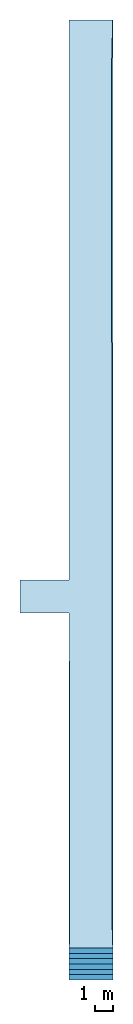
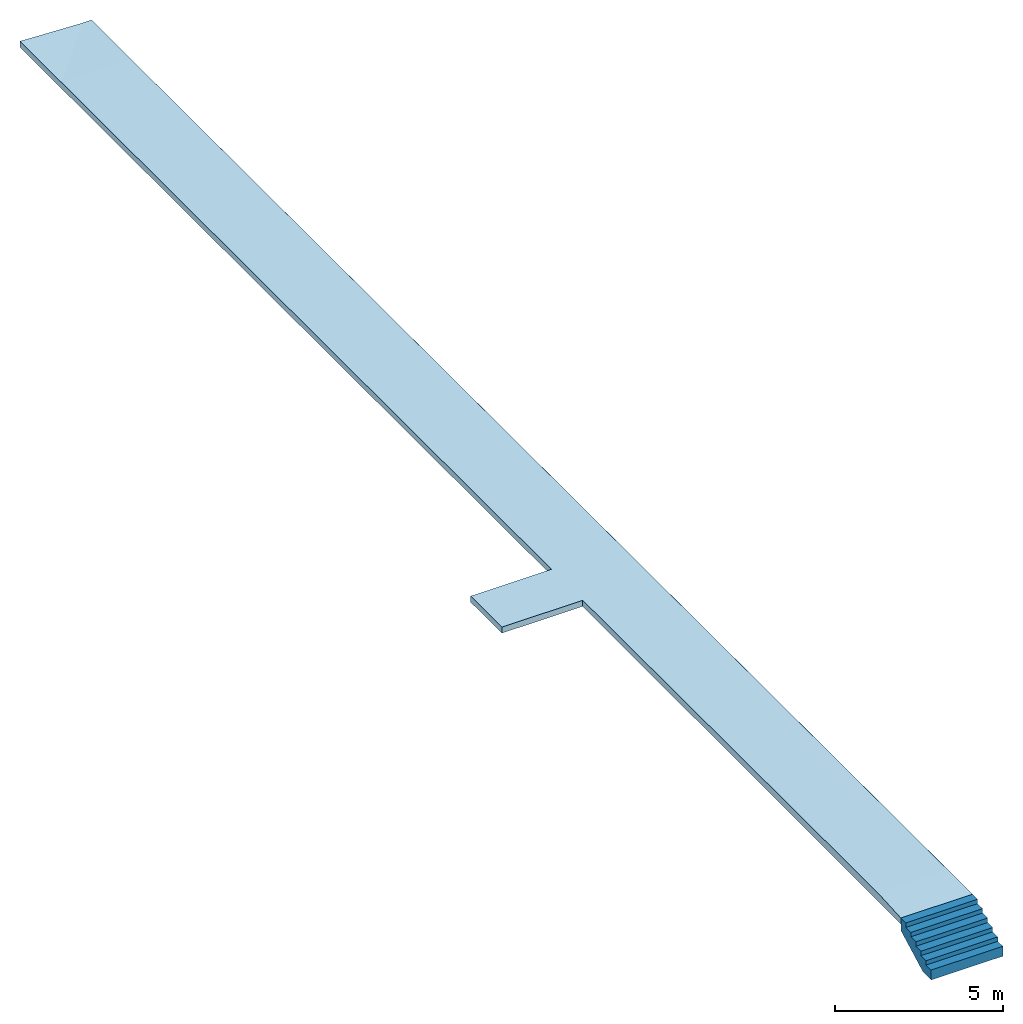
# One storey: 1 slab, 1 stair flight, 1 element without a shape of its own.
"""IFC2X3 building model written with IfcOpenShell, lengths in millimetres."""

import ifcopenshell
import ifcopenshell.guid

model = None  # the IFC model being written
_history = None  # IfcOwnerHistory: only IFC2X3 demands one
_inside = {}  # id of a spatial element -> (the spatial element, [elements in it])
_under = {}  # id of a project, library or spatial element -> (it, [spatial elements below it])
_declared = {}  # id of a project -> (the project, [libraries it declares])
_typed = {}  # id of a type object -> (the type object, [elements of that type])
_made_of = {}  # id of a material, layer set ... -> (it, [elements and type objects made of it])


def new_model(schema):
    """Start an empty IFC model of exactly this schema.

    Asked for "IFC4X3", IfcOpenShell would pick the latest addendum, in which some entities
    have other attributes; the version numbers below select the first issue.
    IFC2X3 requires an IfcOwnerHistory on every rooted entity: one is made here for all.
    """
    global model, _history
    if schema == "IFC4X3":
        model = ifcopenshell.file(schema_version=(4, 3, 0, 0))
    else:
        model = ifcopenshell.file(schema=schema)
    _inside.clear()
    _under.clear()
    _declared.clear()
    _typed.clear()
    _made_of.clear()
    _history = None
    if model.schema == "IFC2X3":
        org = make("IfcOrganization", Name="unknown")
        user = make(
            "IfcPersonAndOrganization",
            ThePerson=make("IfcPerson", FamilyName="unknown"),
            TheOrganization=org,
        )
        app = make(
            "IfcApplication",
            ApplicationDeveloper=org,
            Version="unknown",
            ApplicationFullName="unknown",
            ApplicationIdentifier="unknown",
        )
        _history = make(
            "IfcOwnerHistory",
            OwningUser=user,
            OwningApplication=app,
            ChangeAction="ADDED",
            CreationDate=0,
        )
    return model


def make(cls, **values):
    """One entity of the class cls with the attributes given. An attribute that is None is left unset."""
    return model.create_entity(
        cls, **{name: value for name, value in values.items() if value is not None}
    )


def entity(cls, *values):
    """Any entity or typed value of the class cls, its attributes in the order of the schema. None: left unset."""
    e = model.create_entity(cls)
    for i, value in enumerate(values):
        if value is not None:
            e[i] = value
    return e


def rooted(cls, **values):
    """An entity with a GlobalId (a new one), such as an element, a storey or a relation."""
    return make(cls, GlobalId=ifcopenshell.guid.new(), OwnerHistory=_history, **values)


def si_unit(unit_type, name, prefix=None):
    """IfcSIUnit, for example si_unit("LENGTHUNIT", "METRE", prefix="MILLI")."""
    return make("IfcSIUnit", UnitType=unit_type, Prefix=prefix, Name=name)


def converted_unit(unit_type, name, factor, base, dimensions=None, offset=None):
    """IfcConversionBasedUnit, such as the inch: factor (a typed value) times the base unit."""
    return make(
        "IfcConversionBasedUnit"
        if offset is None
        else "IfcConversionBasedUnitWithOffset",
        ConversionOffset=offset,
        Dimensions=None
        if dimensions is None
        else entity("IfcDimensionalExponents", *dimensions),
        UnitType=unit_type,
        Name=name,
        ConversionFactor=make(
            "IfcMeasureWithUnit", ValueComponent=factor, UnitComponent=base
        ),
    )


def derived_unit(unit_type, elements):
    """IfcDerivedUnit: a product of units, each with its exponent."""
    return make(
        "IfcDerivedUnit",
        Elements=[
            make("IfcDerivedUnitElement", Unit=unit, Exponent=power)
            for unit, power in elements
        ],
        UnitType=unit_type,
    )


def assignment(units):
    """IfcUnitAssignment: the units of a project."""
    return None if units is None else make("IfcUnitAssignment", Units=units)


def point(xyz):
    """IfcCartesianPoint."""
    return None if xyz is None else make("IfcCartesianPoint", Coordinates=xyz)


def direction(xyz):
    """IfcDirection."""
    return None if xyz is None else make("IfcDirection", DirectionRatios=xyz)


def frame(location, z_axis=None, x_axis=None):
    """IfcAxis2Placement3D, a coordinate frame: its origin and axes. An axis left out is left unset."""
    return make(
        "IfcAxis2Placement3D",
        Location=point(location),
        Axis=direction(z_axis),
        RefDirection=direction(x_axis),
    )


def origin():
    """The frame at (0, 0, 0) with its axes left unset."""
    return frame((0.0, 0.0, 0.0))


def place(relative_to, where):
    """IfcLocalPlacement: puts the frame where relative to a parent placement (None: the world)."""
    return make(
        "IfcLocalPlacement", PlacementRelTo=relative_to, RelativePlacement=where
    )


def context(
    kind, dimensions, precision=None, world=None, true_north=None, identifier=None
):
    """IfcGeometricRepresentationContext, for example the 3D "Model" context."""
    return make(
        "IfcGeometricRepresentationContext",
        ContextIdentifier=identifier,
        ContextType=kind,
        CoordinateSpaceDimension=dimensions,
        Precision=precision,
        WorldCoordinateSystem=world,
        TrueNorth=true_north,
    )


def subcontext(parent, identifier, kind, view, scale=None):
    """IfcGeometricRepresentationSubContext, for example "Body" below "Model"."""
    return make(
        "IfcGeometricRepresentationSubContext",
        ContextIdentifier=identifier,
        ContextType=kind,
        ParentContext=parent,
        TargetScale=scale,
        TargetView=view,
    )


def project(units=None, contexts=None):
    """IfcProject with its units and contexts."""
    return rooted(
        "IfcProject",
        Name="project",
        RepresentationContexts=contexts,
        UnitsInContext=assignment(units),
    )


def spatial(cls, under=None, at=None, **own):
    """A site, building, storey or space (cls), placed at a placement, below another one or the project."""
    s = rooted(cls, ObjectPlacement=at, **own)
    if under is not None:
        _under.setdefault(under.id(), (under, []))[1].append(s)
    return s


def faces_of(points, faces, orient=None, outer=None):
    """IfcFace entities. A face is a list of loops; a loop is a list of indices into points, from 0.

    orient and outer hold one flag for each loop. By default every Orientation is true, the
    first loop of a face is its IfcFaceOuterBound and the others are IfcFaceBound.
    """
    made = []
    for i, loops in enumerate(faces):
        bounds = []
        for j, loop in enumerate(loops):
            is_outer = j == 0 if outer is None else outer[i][j]
            bounds.append(
                make(
                    "IfcFaceOuterBound" if is_outer else "IfcFaceBound",
                    Bound=make("IfcPolyLoop", Polygon=[points[k] for k in loop]),
                    Orientation=True if orient is None else orient[i][j],
                )
            )
        made.append(make("IfcFace", Bounds=bounds))
    return made


def faceted_brep(points, faces, orient=None, outer=None, voids=None):
    """IfcFacetedBrep: a solid bounded by flat faces; with voids (closed shells), ...WithVoids."""
    shared = [point(p) for p in points]
    hull = make("IfcClosedShell", CfsFaces=faces_of(shared, faces, orient, outer))
    if voids is None:
        return make("IfcFacetedBrep", Outer=hull)
    return make(
        "IfcFacetedBrepWithVoids",
        Outer=hull,
        Voids=[
            make(cls, CfsFaces=faces_of(shared, fs, o, b)) for cls, fs, o, b in voids
        ],
    )


def shape(context_of_items, identifier, shape_type, items):
    """IfcShapeRepresentation: the items that make up one representation, for example the "Body"."""
    return make(
        "IfcShapeRepresentation",
        ContextOfItems=context_of_items,
        RepresentationIdentifier=identifier,
        RepresentationType=shape_type,
        Items=items,
    )


def material(Name=None, Category=None):
    """IfcMaterial."""
    return make("IfcMaterial", Name=Name, Category=Category)


def layer(
    of_material, thickness, ventilated=None, Name=None, Category=None, Priority=None
):
    """IfcMaterialLayer: one layer of a wall or slab, of a material (None: an air gap)."""
    return make(
        "IfcMaterialLayer",
        Material=of_material,
        LayerThickness=thickness,
        IsVentilated=ventilated,
        Name=Name,
        Category=Category,
        Priority=Priority,
    )


def layer_set(layers, Name=None):
    """IfcMaterialLayerSet."""
    return make("IfcMaterialLayerSet", MaterialLayers=layers, LayerSetName=Name)


def made_of(thing, what):
    """Note that an element or type object is made of a material, layer set ...; save() writes the relation."""
    if what is not None:
        _made_of.setdefault(what.id(), (what, []))[1].append(thing)
    return thing


def type_object(cls, material=None, **own):
    """A type object (cls), such as IfcWallType, which elements share."""
    return made_of(rooted(cls, **own), material)


def element(
    cls,
    number,
    at=None,
    inside=None,
    cuts=None,
    type_object=None,
    material=None,
    context=None,
    identifier="Body",
    shape_type=None,
    held_by="IfcProductDefinitionShape",
    body=None,
    shapes=None,
    **own,
):
    """One element of the class cls, such as IfcWall. Its Tag is "e" and its number.

    at: its placement. inside: the storey or other place that contains it. cuts: it is an
    opening in that element (IfcRelVoidsElement). A single representation is given by context,
    identifier, shape_type and body (its items); several are given by shapes. held_by: the class
    of the entity that holds the representations. save() writes the other relations.
    """
    e = rooted(cls, Tag="e%d" % number, ObjectPlacement=at, **own)
    if body is not None:
        shapes = [shape(context, identifier, shape_type, body)]
    if shapes is not None:
        e.Representation = make(held_by, Representations=shapes)
    if inside is not None:
        _inside.setdefault(inside.id(), (inside, []))[1].append(e)
    if cuts is not None:
        rooted(
            "IfcRelVoidsElement", RelatingBuildingElement=cuts, RelatedOpeningElement=e
        )
    if type_object is not None:
        _typed.setdefault(type_object.id(), (type_object, []))[1].append(e)
    return made_of(e, material)


def aggregate(whole, parts):
    """IfcRelAggregates: a whole, such as a stair, and the parts it consists of."""
    return rooted("IfcRelAggregates", RelatingObject=whole, RelatedObjects=parts)


def save(model, path):
    """Write the relations noted so far, then the file.

    IfcRelAggregates (storeys below a building ...), IfcRelContainedInSpatialStructure (elements
    in a storey), IfcRelDefinesByType, IfcRelAssociatesMaterial and IfcRelDeclares: one each for
    every whole, place, type object, material and project.
    """
    for whole, parts in _under.values():
        aggregate(whole, parts)
    for where, things in _inside.values():
        rooted(
            "IfcRelContainedInSpatialStructure",
            RelatedElements=things,
            RelatingStructure=where,
        )
    for kind, things in _typed.values():
        rooted("IfcRelDefinesByType", RelatedObjects=things, RelatingType=kind)
    for what, things in _made_of.values():
        rooted("IfcRelAssociatesMaterial", RelatedObjects=things, RelatingMaterial=what)
    for by, libraries in _declared.values():
        rooted("IfcRelDeclares", RelatingContext=by, RelatedDefinitions=libraries)
    model.write(path)


model = new_model("IFC2X3")

# Units and contexts
model_context = context("Model", 3, precision=0.01, world=origin(), true_north=direction((6.123031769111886e-17, 1.0)))
body_context = subcontext(model_context, "Body", "Model", "MODEL_VIEW")
ifc_project = project(units=[si_unit("LENGTHUNIT", "METRE", prefix="MILLI"), si_unit("AREAUNIT", "SQUARE_METRE"), si_unit("VOLUMEUNIT", "CUBIC_METRE"), converted_unit("PLANEANGLEUNIT", "DEGREE", entity("IfcPlaneAngleMeasure", 0.017453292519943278), si_unit("PLANEANGLEUNIT", "RADIAN"), dimensions=[0, 0, 0, 0, 0, 0, 0]), si_unit("MASSUNIT", "GRAM", prefix="KILO"), derived_unit("MASSDENSITYUNIT", [(si_unit("MASSUNIT", "GRAM", prefix="KILO"), 1), (si_unit("LENGTHUNIT", "METRE"), -3)]), derived_unit("IONCONCENTRATIONUNIT", [(si_unit("MASSUNIT", "GRAM", prefix="KILO"), 1), (si_unit("LENGTHUNIT", "METRE"), -3)]), derived_unit("MOMENTOFINERTIAUNIT", [(si_unit("LENGTHUNIT", "METRE"), 4)]), si_unit("TIMEUNIT", "SECOND"), si_unit("FREQUENCYUNIT", "HERTZ"), si_unit("THERMODYNAMICTEMPERATUREUNIT", "DEGREE_CELSIUS"), derived_unit("THERMALTRANSMITTANCEUNIT", [(si_unit("MASSUNIT", "GRAM", prefix="KILO"), 1), (si_unit("THERMODYNAMICTEMPERATUREUNIT", "KELVIN"), -1), (si_unit("TIMEUNIT", "SECOND"), -3)]), derived_unit("THERMALCONDUCTANCEUNIT", [(si_unit("MASSUNIT", "GRAM", prefix="KILO"), 1), (si_unit("THERMODYNAMICTEMPERATUREUNIT", "KELVIN"), -1), (si_unit("TIMEUNIT", "SECOND"), -3), (si_unit("LENGTHUNIT", "METRE"), 1)]), derived_unit("VOLUMETRICFLOWRATEUNIT", [(si_unit("LENGTHUNIT", "METRE", prefix="DECI"), 3), (si_unit("TIMEUNIT", "SECOND"), -1)]), derived_unit("MASSFLOWRATEUNIT", [(si_unit("MASSUNIT", "GRAM", prefix="KILO"), 1), (si_unit("TIMEUNIT", "SECOND"), -1)]), derived_unit("ROTATIONALFREQUENCYUNIT", [(si_unit("TIMEUNIT", "SECOND"), -1)]), si_unit("ELECTRICCURRENTUNIT", "AMPERE"), si_unit("ELECTRICVOLTAGEUNIT", "VOLT"), si_unit("POWERUNIT", "WATT"), si_unit("FORCEUNIT", "NEWTON", prefix="KILO"), si_unit("ILLUMINANCEUNIT", "LUX"), si_unit("LUMINOUSFLUXUNIT", "LUMEN"), si_unit("LUMINOUSINTENSITYUNIT", "CANDELA"), si_unit("ENERGYUNIT", "JOULE"), derived_unit("USERDEFINED", [(si_unit("MASSUNIT", "GRAM", prefix="KILO"), -1), (si_unit("LENGTHUNIT", "METRE"), -2), (si_unit("TIMEUNIT", "SECOND"), 3), (si_unit("LUMINOUSFLUXUNIT", "LUMEN"), 1)]), derived_unit("USERDEFINED", [(si_unit("MASSUNIT", "GRAM", prefix="KILO"), 1), (si_unit("TIMEUNIT", "SECOND"), -3), (si_unit("LENGTHUNIT", "METRE"), 3), (si_unit("ELECTRICCURRENTUNIT", "AMPERE"), -2)]), derived_unit("SOUNDPOWERUNIT", [(si_unit("MASSUNIT", "GRAM", prefix="KILO"), 1), (si_unit("TIMEUNIT", "SECOND"), -3), (si_unit("LENGTHUNIT", "METRE"), 2)]), derived_unit("SOUNDPRESSUREUNIT", [(si_unit("MASSUNIT", "GRAM", prefix="KILO"), 1), (si_unit("LENGTHUNIT", "METRE"), -1), (si_unit("TIMEUNIT", "SECOND"), -2)]), derived_unit("LINEARVELOCITYUNIT", [(si_unit("LENGTHUNIT", "METRE"), 1), (si_unit("TIMEUNIT", "SECOND"), -1)]), si_unit("PRESSUREUNIT", "PASCAL"), derived_unit("USERDEFINED", [(si_unit("MASSUNIT", "GRAM", prefix="KILO"), 1), (si_unit("LENGTHUNIT", "METRE"), -2), (si_unit("TIMEUNIT", "SECOND"), -2)]), derived_unit("LINEARFORCEUNIT", [(si_unit("MASSUNIT", "GRAM", prefix="KILO"), 1), (si_unit("TIMEUNIT", "SECOND"), -2)]), derived_unit("PLANARFORCEUNIT", [(si_unit("MASSUNIT", "GRAM", prefix="KILO"), 1), (si_unit("LENGTHUNIT", "METRE"), -1), (si_unit("TIMEUNIT", "SECOND"), -2)]), derived_unit("SPECIFICHEATCAPACITYUNIT", [(si_unit("THERMODYNAMICTEMPERATUREUNIT", "KELVIN"), -1), (si_unit("LENGTHUNIT", "METRE"), 2), (si_unit("TIMEUNIT", "SECOND"), -2)]), derived_unit("HEATFLUXDENSITYUNIT", [(si_unit("MASSUNIT", "GRAM", prefix="KILO"), 1), (si_unit("TIMEUNIT", "SECOND"), -3)]), derived_unit("HEATINGVALUEUNIT", [(si_unit("LENGTHUNIT", "METRE"), 2), (si_unit("TIMEUNIT", "SECOND"), -2)]), derived_unit("VAPORPERMEABILITYUNIT", [(si_unit("LENGTHUNIT", "METRE"), -1), (si_unit("TIMEUNIT", "SECOND"), 1)]), derived_unit("DYNAMICVISCOSITYUNIT", [(si_unit("MASSUNIT", "GRAM", prefix="KILO"), 1), (si_unit("TIMEUNIT", "SECOND"), -1), (si_unit("LENGTHUNIT", "METRE"), -1)]), derived_unit("THERMALEXPANSIONCOEFFICIENTUNIT", [(si_unit("THERMODYNAMICTEMPERATUREUNIT", "KELVIN"), -1)]), derived_unit("MODULUSOFELASTICITYUNIT", [(si_unit("MASSUNIT", "GRAM", prefix="KILO"), 1), (si_unit("LENGTHUNIT", "METRE"), -1), (si_unit("TIMEUNIT", "SECOND"), -2)]), derived_unit("ISOTHERMALMOISTURECAPACITYUNIT", [(si_unit("MASSUNIT", "GRAM", prefix="KILO"), -1), (si_unit("LENGTHUNIT", "METRE"), 3)]), derived_unit("MOISTUREDIFFUSIVITYUNIT", [(si_unit("TIMEUNIT", "SECOND"), -1), (si_unit("LENGTHUNIT", "METRE"), 2)]), derived_unit("MASSPERLENGTHUNIT", [(si_unit("MASSUNIT", "GRAM", prefix="KILO"), 1), (si_unit("LENGTHUNIT", "METRE"), -1)]), derived_unit("THERMALRESISTANCEUNIT", [(si_unit("MASSUNIT", "GRAM", prefix="KILO"), -1), (si_unit("TIMEUNIT", "SECOND"), 3), (si_unit("THERMODYNAMICTEMPERATUREUNIT", "KELVIN"), 1)]), derived_unit("ACCELERATIONUNIT", [(si_unit("LENGTHUNIT", "METRE"), 1), (si_unit("TIMEUNIT", "SECOND"), -2)]), derived_unit("ANGULARVELOCITYUNIT", [(si_unit("TIMEUNIT", "SECOND"), -1), (si_unit("PLANEANGLEUNIT", "RADIAN"), 1)]), derived_unit("LINEARSTIFFNESSUNIT", [(si_unit("MASSUNIT", "GRAM", prefix="KILO"), 1), (si_unit("TIMEUNIT", "SECOND"), -2)]), derived_unit("WARPINGCONSTANTUNIT", [(si_unit("LENGTHUNIT", "METRE"), 6)]), derived_unit("LINEARMOMENTUNIT", [(si_unit("MASSUNIT", "GRAM", prefix="KILO"), 1), (si_unit("LENGTHUNIT", "METRE"), 1), (si_unit("TIMEUNIT", "SECOND"), -2)]), derived_unit("TORQUEUNIT", [(si_unit("MASSUNIT", "GRAM", prefix="KILO"), 1), (si_unit("LENGTHUNIT", "METRE"), 2), (si_unit("TIMEUNIT", "SECOND"), -2)])], contexts=[model_context])

# Site, building, storey
site_placement = place(None, origin())
site = spatial("IfcSite", under=ifc_project, at=site_placement, Name="Default", CompositionType="ELEMENT")
building_placement = place(site_placement, origin())
building = spatial("IfcBuilding", under=site, at=building_placement, Name="Eesti Rahvusraamatukogu hoone renoveerimise projekteerimistööd", CompositionType="ELEMENT")
storey_placement = place(building_placement, frame((0.0, 0.0, -4060.0)))
storey = spatial("IfcBuildingStorey", under=building, at=storey_placement, Name="E-korpus -1. korrus", CompositionType="ELEMENT", Elevation=-4059.9999999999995)

# Slab
ifc_material_1 = material(Name="ol. olev materjal")
ifc_layer = layer(ifc_material_1, 220.0)
ifc_layer_set = layer_set([ifc_layer], Name="Floor:ol. olev - 220mm")
slab_type = type_object("IfcSlabType", Name="Floor:ol. olev - 220mm", PredefinedType="FLOOR", material=ifc_layer_set)
slab_placement = place(storey_placement, origin())
element("IfcSlab", 1, at=slab_placement, inside=storey, type_object=slab_type, material=ifc_material_1, Name="Floor:ol. olev - 220mm", ObjectType="Floor:ol. olev - 220mm", PredefinedType="FLOOR", context=body_context, shape_type="Brep", body=[
    faceted_brep([(-44540.0, 3255.0, 1520.0), (-44540.0, 3255.0, 1740.0), (-47003.99999999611, 3255.0, 1740.0), (-47003.99999999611, 3255.0, 1520.0), (-47003.99999999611, 22174.25243923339, 1800.0), (-47003.99999999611, 22174.25243923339, 1580.0), (-44540.0, 55645.92198742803, 1700.2690895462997), (-44540.0, 55645.92198742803, 1480.2690895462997), (-44586.97315752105, 4659.507636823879, 1800.0), (-46987.98985574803, 4659.507636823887, 1800.0), (-46987.98985574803, 4659.507636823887, 1580.0), (-44586.97315752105, 4659.507636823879, 1580.0), (-44548.82209004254, 55645.92198742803, 1712.62412588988), (-44609.88277936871, 53190.0, 1800.0000000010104), (-46994.15488757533, 53190.0, 1800.0), (-46997.76168709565, 55645.92198742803, 1800.0), (-47003.99999999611, 55645.92198742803, 1800.0), (-47003.99999999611, 24030.677958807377, 1800.0), (-49781.62808124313, 24030.677958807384, 1800.0), (-49781.62808124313, 22174.252439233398, 1800.0), (-44609.88277936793, 53190.0, 1580.0), (-44548.82209004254, 55645.92198742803, 1492.6241258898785), (-49781.62808124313, 22174.252439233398, 1580.0), (-49781.62808124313, 24030.677958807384, 1580.0), (-47003.99999999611, 24030.677958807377, 1580.0), (-47003.99999999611, 55645.92198742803, 1580.0), (-46997.76168709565, 55645.92198742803, 1580.0), (-46994.15488757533, 53190.0, 1580.0), (-44849.81560253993, 55645.92198742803, 1712.6241258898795), (-44849.81560253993, 55645.92198742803, 1492.6241258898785)], [[[0, 1, 2, 3]], [[3, 2, 4, 5]], [[6, 1, 0, 7]], [[2, 1, 8, 9]], [[3, 10, 11, 0]], [[2, 9, 4]], [[1, 6, 12, 13]], [[9, 8, 13, 14, 15, 16, 17, 18, 19, 4]], [[3, 5, 10]], [[0, 20, 21, 7]], [[10, 5, 22, 23, 24, 25, 26, 27, 20, 11]], [[28, 14, 13, 12]], [[21, 20, 27, 29]], [[1, 13, 8]], [[0, 11, 20]], [[5, 4, 19, 22]], [[18, 17, 24, 23]], [[24, 17, 16, 25]], [[15, 14, 28]], [[29, 27, 26]], [[19, 18, 23, 22]], [[6, 7, 21, 29, 26, 25, 16, 15, 28, 12]]]),
])

# Stair, stair flight
stair_placement = place(storey_placement, origin())
stair = element("IfcStair", 2, at=stair_placement, inside=storey, Name="Cast-In-Place Stair:Stair", ObjectType="Cast-In-Place Stair:ol. olev trepp,166x300", ShapeType="STRAIGHT_RUN_STAIR")
ifc_material_2 = material(Name="ol. olev - trepp")
stair_flight_type = type_object("IfcStairFlightType", Name="Monolithic Run:Ol. olev monolithic Run 400mm", PredefinedType="STRAIGHT")
stair_flight_placement = place(stair_placement, frame((-47003.99999999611, 1455.0, 0.0)))
stair_flight = element("IfcStairFlight", 3, at=stair_flight_placement, type_object=stair_flight_type, material=ifc_material_2, Name="Cast-In-Place Stair:Stair:5231754 Run 1", ObjectType="Monolithic Run:Ol. olev monolithic Run 400mm", NumberOfRiser=7, NumberOfTreads=6, RiserHeight=0.5249343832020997, TreadLength=0.984251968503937, context=body_context, shape_type="Brep", body=[
    faceted_brep([(0.0, 300.0, 940.0), (0.0, 0.0, 940.0), (2463.9999999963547, 0.0, 940.0), (2463.9999999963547, 300.0, 940.0), (0.0, 300.0, 580.0), (0.0, 0.0, 580.0), (2463.9999999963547, 0.0, 580.0), (2463.9999999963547, 300.0, 580.0), (0.0, 600.0, 1100.0), (0.0, 300.0, 1100.0), (2463.9999999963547, 300.0, 1100.0), (2463.9999999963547, 600.0, 1100.0), (0.0, 600.0, 646.6666666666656), (0.0, 475.0, 580.0), (2463.9999999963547, 475.0, 580.0), (2463.9999999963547, 600.0, 646.6666666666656), (0.0, 900.0, 1260.0), (0.0, 600.0, 1260.0), (2463.9999999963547, 600.0, 1260.0), (2463.9999999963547, 900.0, 1260.0), (0.0, 900.0, 806.6666666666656), (2463.9999999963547, 900.0, 806.6666666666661), (0.0, 1200.0, 1420.0), (0.0, 900.0, 1420.0), (2463.9999999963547, 900.0, 1420.0), (2463.9999999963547, 1200.0, 1420.0), (0.0, 1200.0, 966.6666666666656), (2463.9999999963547, 1200.0, 966.6666666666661), (0.0, 1500.0, 1580.0), (0.0, 1200.0, 1580.0), (2463.9999999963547, 1200.0, 1580.0), (2463.9999999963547, 1500.0, 1580.0), (0.0, 1500.0, 1126.666666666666), (2463.9999999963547, 1500.0, 1126.666666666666), (0.0, 1800.0, 1740.0), (0.0, 1500.0, 1740.0), (2463.9999999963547, 1500.0, 1740.0), (2463.9999999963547, 1800.0, 1740.0), (0.0, 1800.0, 1286.6666666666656), (2463.9999999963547, 1800.0, 1286.6666666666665)], [[[0, 1, 2, 3]], [[1, 0, 4, 5]], [[2, 1, 5, 6]], [[3, 2, 6, 7]], [[8, 9, 10, 11]], [[4, 0, 9, 8, 12, 13]], [[0, 3, 10, 9]], [[3, 7, 14, 15, 11, 10]], [[16, 17, 18, 19]], [[17, 16, 20, 12, 8]], [[8, 11, 18, 17]], [[19, 18, 11, 15, 21]], [[22, 23, 24, 25]], [[23, 22, 26, 20, 16]], [[16, 19, 24, 23]], [[25, 24, 19, 21, 27]], [[28, 29, 30, 31]], [[29, 28, 32, 26, 22]], [[22, 25, 30, 29]], [[31, 30, 25, 27, 33]], [[34, 35, 36, 37]], [[35, 34, 38, 32, 28]], [[28, 31, 36, 35]], [[37, 36, 31, 33, 39]], [[34, 37, 39, 38]], [[5, 4, 13, 14, 7, 6]], [[14, 13, 12, 20, 26, 32, 38, 39, 33, 27, 21, 15]]]),
])
aggregate(stair, [stair_flight])

save(model, "model.ifc")
